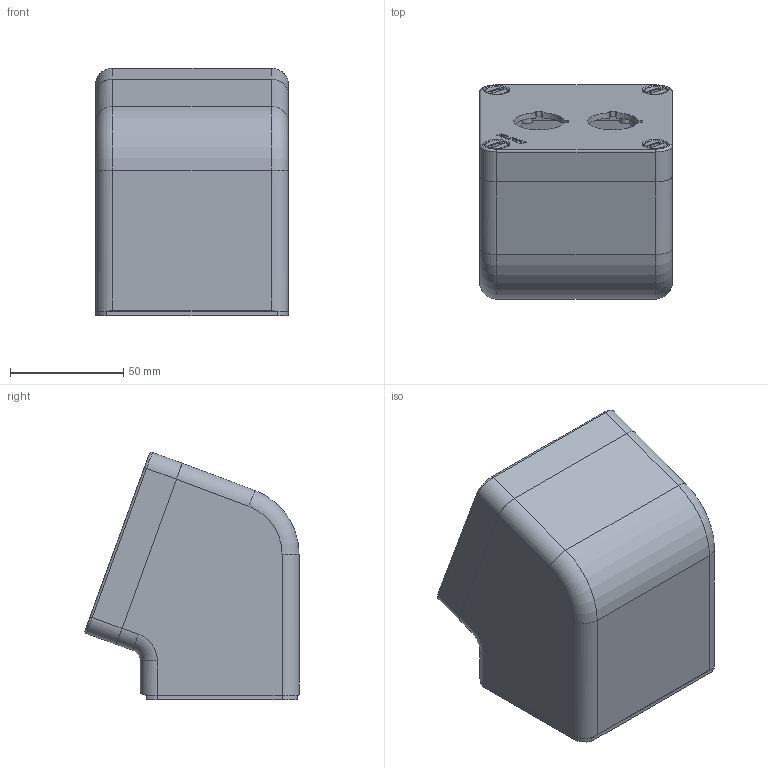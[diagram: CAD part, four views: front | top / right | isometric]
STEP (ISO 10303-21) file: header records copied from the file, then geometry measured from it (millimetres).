
FILE_DESCRIPTION (( 'STEP AP214' ), '1' );
FILE_NAME ('040L0808-8EP2.STEP', '2018-10-03T09:13:47', ( '' ), ( '' ), 'SwSTEP 2.0', 'SolidWorks 2013', '' );
FILE_SCHEMA (( 'AUTOMOTIVE_DESIGN' ));
Length unit declared in the file: millimetre
Products named in the file (1): 040L0808-8EP2
Bounding box: 85 x 94.41 x 109.11 mm (x, y, z)
Volume: 204525.9 mm3; surface area: 96583.8 mm2
Topology: 6 solids, 6 shells, 718 faces, 1796 edges, 1137 vertices
Faces by surface type: plane 330, cylinder 286, torus 88, cone 12, bspline 2
Entity records: 29251 total; most frequent: CARTESIAN_POINT 4019, DIRECTION 3802, ORIENTED_EDGE 3590, EDGE_CURVE 1795, AXIS2_PLACEMENT_3D 1362, VERTEX_POINT 1137, LINE 1078, VECTOR 1078
